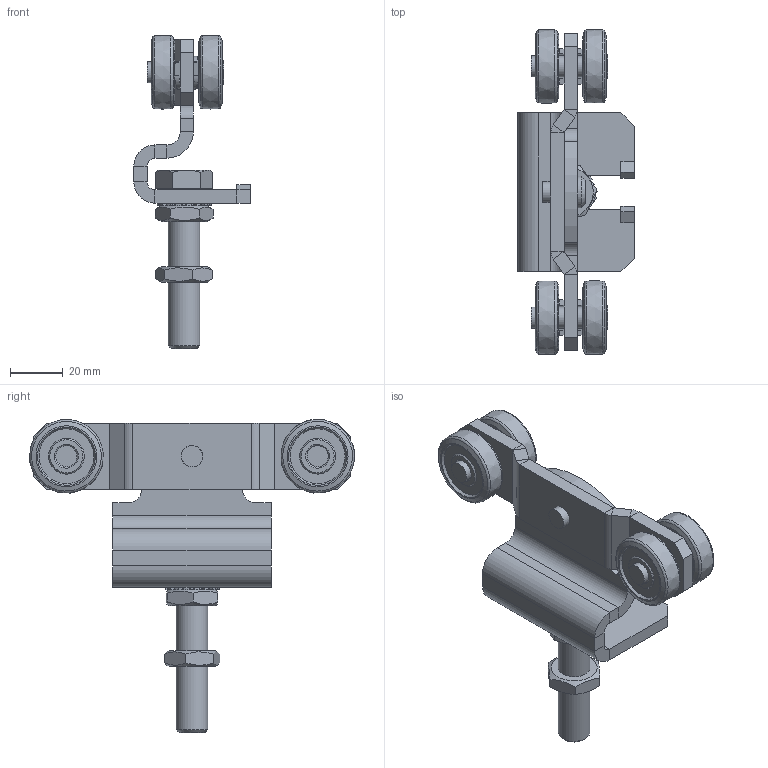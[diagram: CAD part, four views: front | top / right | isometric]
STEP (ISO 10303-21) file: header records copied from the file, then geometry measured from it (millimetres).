
FILE_DESCRIPTION(/* description */ ('Aufhaengehaken zu Doppelrolle Nr.1'),/* implementation_level */ '2;1');
FILE_NAME(/* name */ 'Q:\sge-ma\Produktmanagement-STB\STB\Workspace\TraceParts\Doppelrolle mit Kunststoffaußenring\010336413.stp',/* time_stamp */ '2018-02-21T13:00:27+01:00',/* author */ ('avschreier'),/* organization */ (''),/* preprocessor_version */ 'ST-DEVELOPER v16.1',/* originating_system */ 'Autodesk Inventor 2016',/* authorisation */ '');
FILE_SCHEMA (('CONFIG_CONTROL_DESIGN'));
Length unit declared in the file: millimetre
Products named in the file (10): 337000224; 337000120; 000302238; 336290010; 000303231; 000304011; DIN_EN_ISO_4035-M12_en; DIN_EN_ISO_4017-M12x60_en; DIN_6798-A_13_en; 010336413
Assembly tree (17 placements, depth 2):
  010336413
    337000224
    337000120
    000302238
    336290010  x4
    000303231  x4
    000304011  x2
    DIN_EN_ISO_4035-M12_en  x2
    DIN_EN_ISO_4017-M12x60_en
    DIN_6798-A_13_en
Bounding box: 44 x 122.83 x 118.42 mm (x, y, z)
Volume: 74781.2 mm3; surface area: 37713.9 mm2
Topology: 17 solids, 17 shells, 508 faces, 1227 edges, 774 vertices
Faces by surface type: plane 295, cylinder 124, cone 51, bspline 28, torus 10
Full cylindrical faces by diameter (mm): 8 x8, 8.1 x1, 10 x2, 10.106 x2, 11.053 x1, 12 x2, 13 x1, 17.2 x1
Entity records: 10218 total; most frequent: CARTESIAN_POINT 2422, DIRECTION 1656, ORIENTED_EDGE 1506, EDGE_CURVE 753, AXIS2_PLACEMENT_3D 600, VERTEX_POINT 490, LINE 456, VECTOR 456
